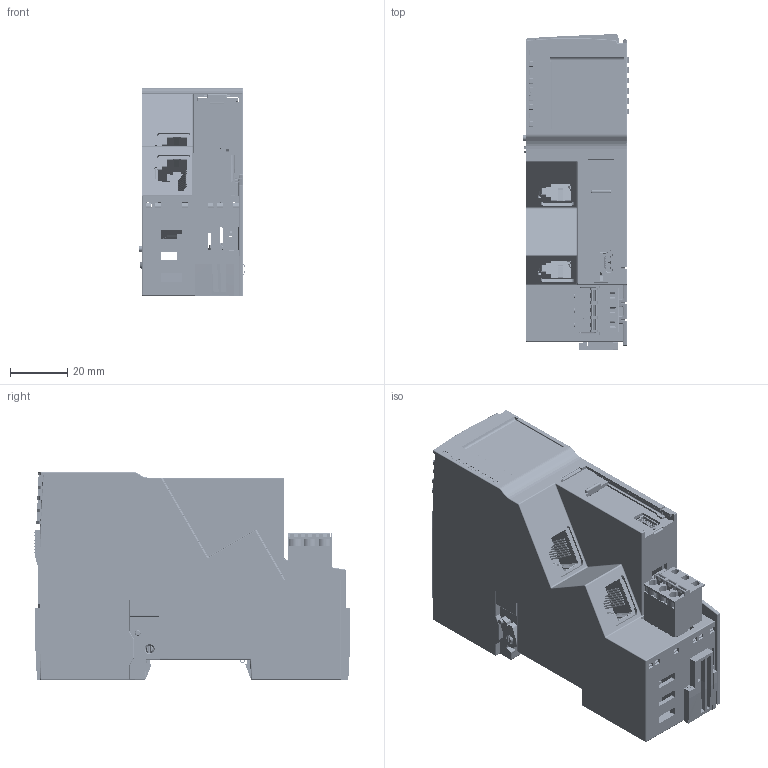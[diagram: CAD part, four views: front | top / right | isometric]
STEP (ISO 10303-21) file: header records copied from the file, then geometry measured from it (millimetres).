
FILE_DESCRIPTION (( 'STEP AP214' ), '1' );
FILE_NAME ('ETH.STEP', '2019-07-17T09:24:56', ( '' ), ( '' ), 'SwSTEP 2.0', 'SolidWorks 2019', '' );
FILE_SCHEMA (( 'AUTOMOTIVE_DESIGN' ));
Length unit declared in the file: millimetre
Products named in the file (74): Schieber_20_Schieber_20; Kopie von Shielding^7499111000A (rev1); Links_geschlossen_14_21_optim_Zchng; Rechts_geschlossen_14_21_optim_Zchng; Verriegelung_oben_1; Schieber_20; Schiebefenster_21_Schiebefenster_21; Tulpe_Power_L飆_21_optimiert; Rechts_geschlossen_14_21_optim_Zchng_Rechts_geschlossen_14_21; Kopf_PH_3_Kopf_PH_3; Unterteil_35_25; Lichtf黨rung_24_Lichtf乭rung_24; Kodierer_2_Kodierer_2; Schieberhebel_20_Schieberhebel_20; Links_geschlossen_14_21_optim_Zchng_Links_geschlossen_14_21; Unterteil_35_25_Basaltgrau_Unterteil_35_25; Beschriftungsstreifen_Buskoppler; X003-1-s-0p V00-00; Messer_L鰐_21_Messer_L攖_21; Schieberhebel_20; Kodierer_1; Geh_Sockel14_21_Lichtgrau_Lichtgrau_Geh_Sockel14_21; Schienenkralle_entspannt_1_Schienenkralle_entspannt_1; Lichtführung_24; Kopie von Insulator^7499111000A (rev1); Oberteil_ETH_35_26; Kodierer_1_Kodierer_1; Verriegelung_oben_1_Verriegelung_oben_1; Schirmkontakt_5; 7499111000A (rev1); Kodierer_2; Tulpe_Power_Löt_21_optimiert_Tulpe_Power_L”t_21; Kopf_PH_3; Schienenkralle_entspannt_1; Schiebefenster_21; Basismodul_14_Power+Koppler_Power und Koppler; pxc_1954922_04_CCA-2-5-3-G-5-08-P26THR_3D; Abdeckung_Sockel_22_Basaltgrau_optimiert; Beschriftungsstreifen_Buskoppler_Beschriftungsstreifen_Buskoppler; Messer_L飆_21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
Assembly tree (49 placements, depth 4):
  Kopie von Shielding^7499111000A (rev1)
  Links_geschlossen_14_21_optim_Zchng
  Rechts_geschlossen_14_21_optim_Zchng
  Verriegelung_oben_1
  Schieber_20
Bounding box: 37.17 x 110.03 x 72.5 mm (x, y, z)
Volume: 65294.7 mm3; surface area: 101305.4 mm2
Topology: 47 solids, 47 shells, 9834 faces, 28071 edges, 18199 vertices
Faces by surface type: plane 5927, cylinder 3251, bspline 329, torus 161, cone 101, sphere 65
Entity records: 276255 total; most frequent: CARTESIAN_POINT 61417, ORIENTED_EDGE 44796, DIRECTION 40825, EDGE_CURVE 22398, LINE 16385, VECTOR 16385, VERTEX_POINT 14586, AXIS2_PLACEMENT_3D 12220
